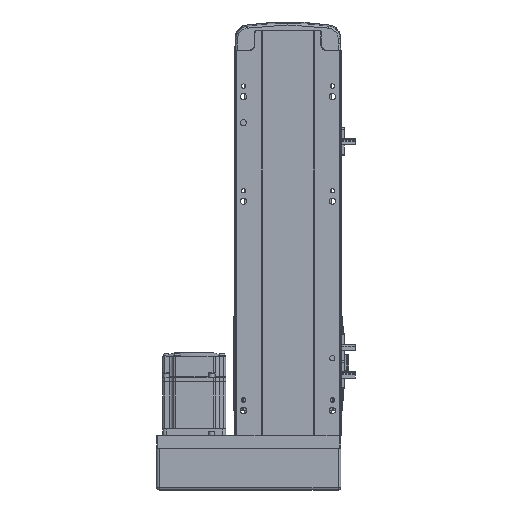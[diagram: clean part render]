
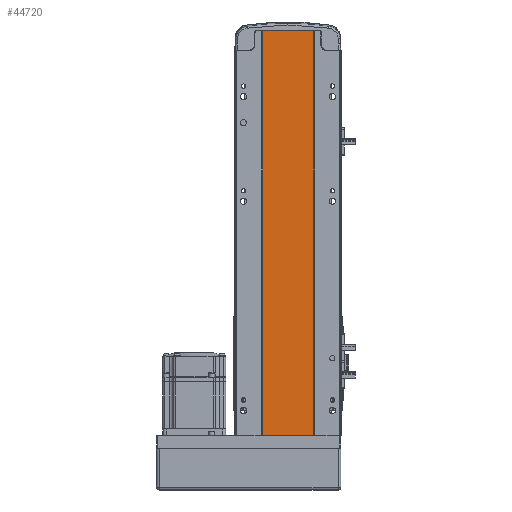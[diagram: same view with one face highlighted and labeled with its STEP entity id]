
A CAD part, front view. The second image highlights one B-rep face of the part: STEP entity #44720.
In plain terms, the highlighted planar face has unit normal (0, -1, 0).
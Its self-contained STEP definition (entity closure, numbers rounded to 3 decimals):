
#1468 = FACE_OUTER_BOUND ( 'NONE', #40631, .T. ) ;
#3274 = LINE ( 'NONE', #16674, #49777 ) ;
#6076 = CARTESIAN_POINT ( 'NONE',  ( 24.5, 2., 387. ) ) ;
#7089 = LINE ( 'NONE', #7385, #24789 ) ;
#7385 = CARTESIAN_POINT ( 'NONE',  ( -24.5, 2., 387. ) ) ;
#9467 = VERTEX_POINT ( 'NONE', #25190 ) ;
#12352 = DIRECTION ( 'NONE',  ( 0., 0., 1. ) ) ;
#14590 = CARTESIAN_POINT ( 'NONE',  ( -24.5, 2., 387. ) ) ;
#16639 = CARTESIAN_POINT ( 'NONE',  ( -24.5, 2., 0. ) ) ;
#16674 = CARTESIAN_POINT ( 'NONE',  ( -24.5, 2., 387. ) ) ;
#16843 = DIRECTION ( 'NONE',  ( 1., 0., 0. ) ) ;
#17064 = EDGE_CURVE ( 'NONE', #45265, #9467, #17443, .T. ) ;
#17443 = LINE ( 'NONE', #39272, #41360 ) ;
#20634 = CARTESIAN_POINT ( 'NONE',  ( 0., 2., 387. ) ) ;
#21900 = VERTEX_POINT ( 'NONE', #14590 ) ;
#23320 = LINE ( 'NONE', #41359, #54905 ) ;
#24789 = VECTOR ( 'NONE', #58146, 1000. ) ;
#25190 = CARTESIAN_POINT ( 'NONE',  ( 24.5, 2., 0. ) ) ;
#25629 = EDGE_CURVE ( 'NONE', #21900, #41980, #3274, .T. ) ;
#25985 = DIRECTION ( 'NONE',  ( 0., 1., 0. ) ) ;
#33314 = ORIENTED_EDGE ( 'NONE', *, *, #44795, .T. ) ;
#38465 = ORIENTED_EDGE ( 'NONE', *, *, #45470, .F. ) ;
#38823 = ORIENTED_EDGE ( 'NONE', *, *, #25629, .F. ) ;
#39272 = CARTESIAN_POINT ( 'NONE',  ( 0., 2., 0. ) ) ;
#39334 = PLANE ( 'NONE',  #49220 ) ;
#40631 = EDGE_LOOP ( 'NONE', ( #42531, #38465, #38823, #33314 ) ) ;
#41360 = VECTOR ( 'NONE', #16843, 1000. ) ;
#41359 = CARTESIAN_POINT ( 'NONE',  ( 24.5, 2., 387. ) ) ;
#41980 = VERTEX_POINT ( 'NONE', #6076 ) ;
#42531 = ORIENTED_EDGE ( 'NONE', *, *, #17064, .T. ) ;
#44720 = ADVANCED_FACE ( 'NONE', ( #1468 ), #39334, .F. ) ;
#44795 = EDGE_CURVE ( 'NONE', #21900, #45265, #7089, .T. ) ;
#45265 = VERTEX_POINT ( 'NONE', #16639 ) ;
#45470 = EDGE_CURVE ( 'NONE', #41980, #9467, #23320, .T. ) ;
#45688 = DIRECTION ( 'NONE',  ( 0., 0., -1. ) ) ;
#48668 = DIRECTION ( 'NONE',  ( 1., 0., 0. ) ) ;
#49220 = AXIS2_PLACEMENT_3D ( 'NONE', #20634, #25985, #12352 ) ;
#49777 = VECTOR ( 'NONE', #48668, 1000. ) ;
#54905 = VECTOR ( 'NONE', #45688, 1000. ) ;
#58146 = DIRECTION ( 'NONE',  ( 0., 0., -1. ) ) ;
